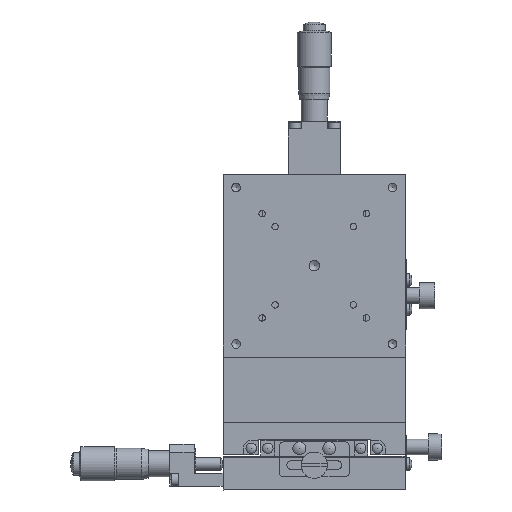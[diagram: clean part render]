
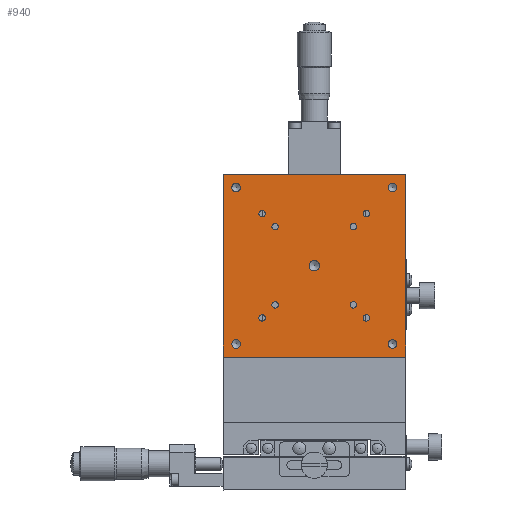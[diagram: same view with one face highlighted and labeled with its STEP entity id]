
A CAD part, front view. The second image highlights one B-rep face of the part: STEP entity #940.
In plain terms, the highlighted planar face has unit normal (0, -1, 0).
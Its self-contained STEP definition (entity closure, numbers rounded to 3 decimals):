
#940 = ADVANCED_FACE( '', ( #2279, #2280, #2281, #2282, #2283, #2284, #2285, #2286, #2287, #2288, #2289, #2290, #2291, #2292 ), #2293, .T. );
#2279 = FACE_BOUND( '', #3854, .T. );
#2280 = FACE_BOUND( '', #3855, .T. );
#2281 = FACE_BOUND( '', #3856, .T. );
#2282 = FACE_BOUND( '', #3857, .T. );
#2283 = FACE_BOUND( '', #3858, .T. );
#2284 = FACE_BOUND( '', #3859, .T. );
#2285 = FACE_BOUND( '', #3860, .T. );
#2286 = FACE_BOUND( '', #3861, .T. );
#2287 = FACE_BOUND( '', #3862, .T. );
#2288 = FACE_BOUND( '', #3863, .T. );
#2289 = FACE_BOUND( '', #3864, .T. );
#2290 = FACE_BOUND( '', #3865, .T. );
#2291 = FACE_BOUND( '', #3866, .T. );
#2292 = FACE_OUTER_BOUND( '', #3867, .T. );
#2293 = PLANE( '', #3868 );
#3854 = EDGE_LOOP( '', ( #7637 ) );
#3855 = EDGE_LOOP( '', ( #7638 ) );
#3856 = EDGE_LOOP( '', ( #7639 ) );
#3857 = EDGE_LOOP( '', ( #7640 ) );
#3858 = EDGE_LOOP( '', ( #7641 ) );
#3859 = EDGE_LOOP( '', ( #7642 ) );
#3860 = EDGE_LOOP( '', ( #7643 ) );
#3861 = EDGE_LOOP( '', ( #7644 ) );
#3862 = EDGE_LOOP( '', ( #7645 ) );
#3863 = EDGE_LOOP( '', ( #7646 ) );
#3864 = EDGE_LOOP( '', ( #7647 ) );
#3865 = EDGE_LOOP( '', ( #7648 ) );
#3866 = EDGE_LOOP( '', ( #7649 ) );
#3867 = EDGE_LOOP( '', ( #7650, #7651, #7652, #7653 ) );
#3868 = AXIS2_PLACEMENT_3D( '', #7654, #7655, #7656 );
#7637 = ORIENTED_EDGE( '', *, *, #9487, .T. );
#7638 = ORIENTED_EDGE( '', *, *, #9488, .T. );
#7639 = ORIENTED_EDGE( '', *, *, #9489, .T. );
#7640 = ORIENTED_EDGE( '', *, *, #9490, .T. );
#7641 = ORIENTED_EDGE( '', *, *, #9491, .T. );
#7642 = ORIENTED_EDGE( '', *, *, #9492, .T. );
#7643 = ORIENTED_EDGE( '', *, *, #9493, .T. );
#7644 = ORIENTED_EDGE( '', *, *, #9494, .T. );
#7645 = ORIENTED_EDGE( '', *, *, #9495, .T. );
#7646 = ORIENTED_EDGE( '', *, *, #9496, .T. );
#7647 = ORIENTED_EDGE( '', *, *, #9497, .T. );
#7648 = ORIENTED_EDGE( '', *, *, #9498, .T. );
#7649 = ORIENTED_EDGE( '', *, *, #9499, .T. );
#7650 = ORIENTED_EDGE( '', *, *, #9500, .F. );
#7651 = ORIENTED_EDGE( '', *, *, #9501, .F. );
#7652 = ORIENTED_EDGE( '', *, *, #9479, .F. );
#7653 = ORIENTED_EDGE( '', *, *, #9502, .F. );
#7654 = CARTESIAN_POINT( '', ( 0., -47., 86. ) );
#7655 = DIRECTION( '', ( 0., -1., 0. ) );
#7656 = DIRECTION( '', ( 1., 0., 0. ) );
#9479 = EDGE_CURVE( '', #11427, #11429, #11430, .T. );
#9487 = EDGE_CURVE( '', #11444, #11444, #11445, .T. );
#9488 = EDGE_CURVE( '', #11446, #11446, #11447, .T. );
#9489 = EDGE_CURVE( '', #11448, #11448, #11449, .T. );
#9490 = EDGE_CURVE( '', #11450, #11450, #11451, .T. );
#9491 = EDGE_CURVE( '', #11452, #11452, #11453, .T. );
#9492 = EDGE_CURVE( '', #11454, #11454, #11455, .T. );
#9493 = EDGE_CURVE( '', #11456, #11456, #11457, .T. );
#9494 = EDGE_CURVE( '', #11458, #11458, #11459, .T. );
#9495 = EDGE_CURVE( '', #11460, #11460, #11461, .T. );
#9496 = EDGE_CURVE( '', #11462, #11462, #11463, .T. );
#9497 = EDGE_CURVE( '', #11464, #11464, #11465, .T. );
#9498 = EDGE_CURVE( '', #11466, #11466, #11467, .T. );
#9499 = EDGE_CURVE( '', #11468, #11468, #11469, .T. );
#9500 = EDGE_CURVE( '', #11470, #11471, #11472, .T. );
#9501 = EDGE_CURVE( '', #11429, #11470, #11473, .T. );
#9502 = EDGE_CURVE( '', #11471, #11427, #11474, .T. );
#11427 = VERTEX_POINT( '', #14182 );
#11429 = VERTEX_POINT( '', #14185 );
#11430 = LINE( '', #14186, #14187 );
#11444 = VERTEX_POINT( '', #14207 );
#11445 = CIRCLE( '', #14208, 2. );
#11446 = VERTEX_POINT( '', #14209 );
#11447 = CIRCLE( '', #14210, 1.25 );
#11448 = VERTEX_POINT( '', #14211 );
#11449 = CIRCLE( '', #14212, 1.25 );
#11450 = VERTEX_POINT( '', #14213 );
#11451 = CIRCLE( '', #14214, 1.25 );
#11452 = VERTEX_POINT( '', #14215 );
#11453 = CIRCLE( '', #14216, 1.25 );
#11454 = VERTEX_POINT( '', #14217 );
#11455 = CIRCLE( '', #14218, 1.65 );
#11456 = VERTEX_POINT( '', #14219 );
#11457 = CIRCLE( '', #14220, 1.65 );
#11458 = VERTEX_POINT( '', #14221 );
#11459 = CIRCLE( '', #14222, 1.65 );
#11460 = VERTEX_POINT( '', #14223 );
#11461 = CIRCLE( '', #14224, 1.65 );
#11462 = VERTEX_POINT( '', #14225 );
#11463 = CIRCLE( '', #14226, 1.25 );
#11464 = VERTEX_POINT( '', #14227 );
#11465 = CIRCLE( '', #14228, 1.25 );
#11466 = VERTEX_POINT( '', #14229 );
#11467 = CIRCLE( '', #14230, 1.25 );
#11468 = VERTEX_POINT( '', #14231 );
#11469 = CIRCLE( '', #14232, 1.25 );
#11470 = VERTEX_POINT( '', #14233 );
#11471 = VERTEX_POINT( '', #14234 );
#11472 = LINE( '', #14235, #14236 );
#11473 = LINE( '', #14237, #14238 );
#11474 = LINE( '', #14239, #14240 );
#14182 = CARTESIAN_POINT( '', ( -35., -47., 121. ) );
#14185 = CARTESIAN_POINT( '', ( 35., -47., 121. ) );
#14186 = CARTESIAN_POINT( '', ( 0., -47., 121. ) );
#14187 = VECTOR( '', #16395, 1000. );
#14207 = CARTESIAN_POINT( '', ( 2., -47., 86. ) );
#14208 = AXIS2_PLACEMENT_3D( '', #16405, #16406, #16407 );
#14209 = CARTESIAN_POINT( '', ( 16.25, -47., 101. ) );
#14210 = AXIS2_PLACEMENT_3D( '', #16408, #16409, #16410 );
#14211 = CARTESIAN_POINT( '', ( -13.75, -47., 101. ) );
#14212 = AXIS2_PLACEMENT_3D( '', #16411, #16412, #16413 );
#14213 = CARTESIAN_POINT( '', ( -13.75, -47., 71. ) );
#14214 = AXIS2_PLACEMENT_3D( '', #16414, #16415, #16416 );
#14215 = CARTESIAN_POINT( '', ( 16.25, -47., 71. ) );
#14216 = AXIS2_PLACEMENT_3D( '', #16417, #16418, #16419 );
#14217 = CARTESIAN_POINT( '', ( 31.65, -47., 116. ) );
#14218 = AXIS2_PLACEMENT_3D( '', #16420, #16421, #16422 );
#14219 = CARTESIAN_POINT( '', ( -28.35, -47., 116. ) );
#14220 = AXIS2_PLACEMENT_3D( '', #16423, #16424, #16425 );
#14221 = CARTESIAN_POINT( '', ( -28.35, -47., 56. ) );
#14222 = AXIS2_PLACEMENT_3D( '', #16426, #16427, #16428 );
#14223 = CARTESIAN_POINT( '', ( 31.65, -47., 56. ) );
#14224 = AXIS2_PLACEMENT_3D( '', #16429, #16430, #16431 );
#14225 = CARTESIAN_POINT( '', ( 21.25, -47., 106. ) );
#14226 = AXIS2_PLACEMENT_3D( '', #16432, #16433, #16434 );
#14227 = CARTESIAN_POINT( '', ( -18.75, -47., 106. ) );
#14228 = AXIS2_PLACEMENT_3D( '', #16435, #16436, #16437 );
#14229 = CARTESIAN_POINT( '', ( -18.75, -47., 66. ) );
#14230 = AXIS2_PLACEMENT_3D( '', #16438, #16439, #16440 );
#14231 = CARTESIAN_POINT( '', ( 21.25, -47., 66. ) );
#14232 = AXIS2_PLACEMENT_3D( '', #16441, #16442, #16443 );
#14233 = CARTESIAN_POINT( '', ( 35., -47., 51. ) );
#14234 = CARTESIAN_POINT( '', ( -35., -47., 51. ) );
#14235 = CARTESIAN_POINT( '', ( 0., -47., 51. ) );
#14236 = VECTOR( '', #16444, 1000. );
#14237 = CARTESIAN_POINT( '', ( 35., -47., 86. ) );
#14238 = VECTOR( '', #16445, 1000. );
#14239 = CARTESIAN_POINT( '', ( -35., -47., 86. ) );
#14240 = VECTOR( '', #16446, 1000. );
#16395 = DIRECTION( '', ( 1., 0., 0. ) );
#16405 = CARTESIAN_POINT( '', ( 0., -47., 86. ) );
#16406 = DIRECTION( '', ( 0., 1., 0. ) );
#16407 = DIRECTION( '', ( 1., 0., 0. ) );
#16408 = CARTESIAN_POINT( '', ( 15., -47., 101. ) );
#16409 = DIRECTION( '', ( 0., 1., 0. ) );
#16410 = DIRECTION( '', ( 1., 0., 0. ) );
#16411 = CARTESIAN_POINT( '', ( -15., -47., 101. ) );
#16412 = DIRECTION( '', ( 0., 1., 0. ) );
#16413 = DIRECTION( '', ( 1., 0., 0. ) );
#16414 = CARTESIAN_POINT( '', ( -15., -47., 71. ) );
#16415 = DIRECTION( '', ( 0., 1., 0. ) );
#16416 = DIRECTION( '', ( 1., 0., 0. ) );
#16417 = CARTESIAN_POINT( '', ( 15., -47., 71. ) );
#16418 = DIRECTION( '', ( 0., 1., 0. ) );
#16419 = DIRECTION( '', ( 1., 0., 0. ) );
#16420 = CARTESIAN_POINT( '', ( 30., -47., 116. ) );
#16421 = DIRECTION( '', ( 0., 1., 0. ) );
#16422 = DIRECTION( '', ( 1., 0., 0. ) );
#16423 = CARTESIAN_POINT( '', ( -30., -47., 116. ) );
#16424 = DIRECTION( '', ( 0., 1., 0. ) );
#16425 = DIRECTION( '', ( 1., 0., 0. ) );
#16426 = CARTESIAN_POINT( '', ( -30., -47., 56. ) );
#16427 = DIRECTION( '', ( 0., 1., 0. ) );
#16428 = DIRECTION( '', ( 1., 0., 0. ) );
#16429 = CARTESIAN_POINT( '', ( 30., -47., 56. ) );
#16430 = DIRECTION( '', ( 0., 1., 0. ) );
#16431 = DIRECTION( '', ( 1., 0., 0. ) );
#16432 = CARTESIAN_POINT( '', ( 20., -47., 106. ) );
#16433 = DIRECTION( '', ( 0., 1., 0. ) );
#16434 = DIRECTION( '', ( 1., 0., 0. ) );
#16435 = CARTESIAN_POINT( '', ( -20., -47., 106. ) );
#16436 = DIRECTION( '', ( 0., 1., 0. ) );
#16437 = DIRECTION( '', ( 1., 0., 0. ) );
#16438 = CARTESIAN_POINT( '', ( -20., -47., 66. ) );
#16439 = DIRECTION( '', ( 0., 1., 0. ) );
#16440 = DIRECTION( '', ( 1., 0., 0. ) );
#16441 = CARTESIAN_POINT( '', ( 20., -47., 66. ) );
#16442 = DIRECTION( '', ( 0., 1., 0. ) );
#16443 = DIRECTION( '', ( 1., 0., 0. ) );
#16444 = DIRECTION( '', ( -1., 0., 0. ) );
#16445 = DIRECTION( '', ( 0., 0., -1. ) );
#16446 = DIRECTION( '', ( 0., 0., 1. ) );
